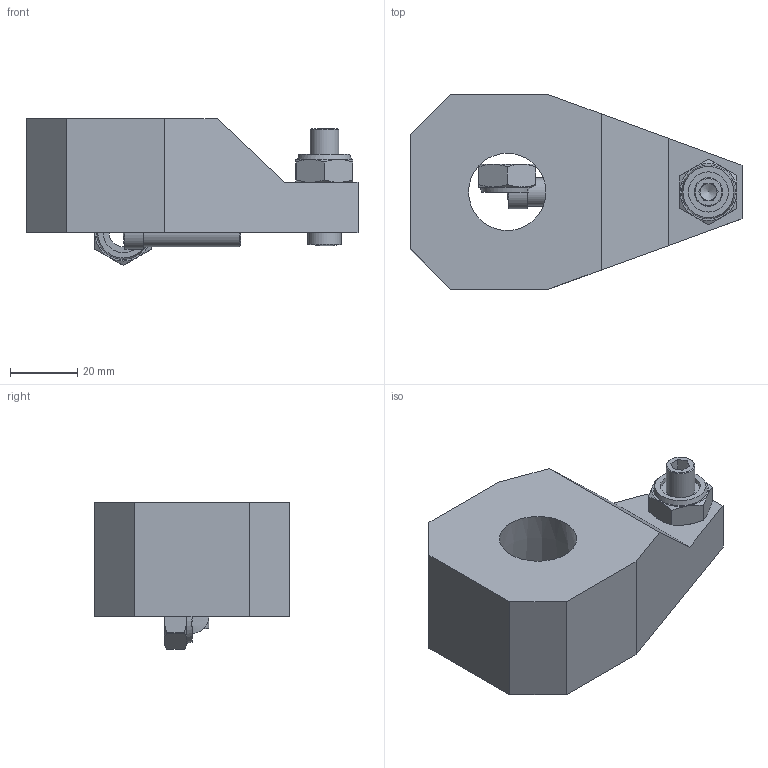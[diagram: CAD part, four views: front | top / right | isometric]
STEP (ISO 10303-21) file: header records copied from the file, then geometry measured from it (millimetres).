
FILE_DESCRIPTION( ( '' ), '1' );
FILE_NAME( 'W:/Catalogue/JSM/jsm50_clamparm/jsm50_clamparm.stp', '2008-05-26T02:58:01', ( '機械事業部産業機器グループ' ), ( '豊和工業株式会社' ), 'XStep 1.0', ' ', ' ' );
FILE_SCHEMA( ( 'CONFIG_CONTROL_DESIGN' ) );
Length unit declared in the file: millimetre
Products named in the file (4): Assem1; 1; 2; 3
Bounding box: 99 x 58 x 43.8 mm (x, y, z)
Volume: 228261.5 mm3; surface area: 41615.1 mm2
Topology: 6 solids, 6 shells, 134 faces, 310 edges, 194 vertices
Faces by surface type: plane 74, cone 32, cylinder 26, sphere 2
Full cylindrical faces by diameter (mm): 5 x2, 8.5 x6, 10 x2, 10.5 x2, 12 x2
Entity records: 2068 total; most frequent: CARTESIAN_POINT 438, DIRECTION 304, ORIENTED_EDGE 276, EDGE_CURVE 138, AXIS2_PLACEMENT_3D 119, VERTEX_POINT 93, EDGE_LOOP 88, FACE_OUTER_BOUND 74
